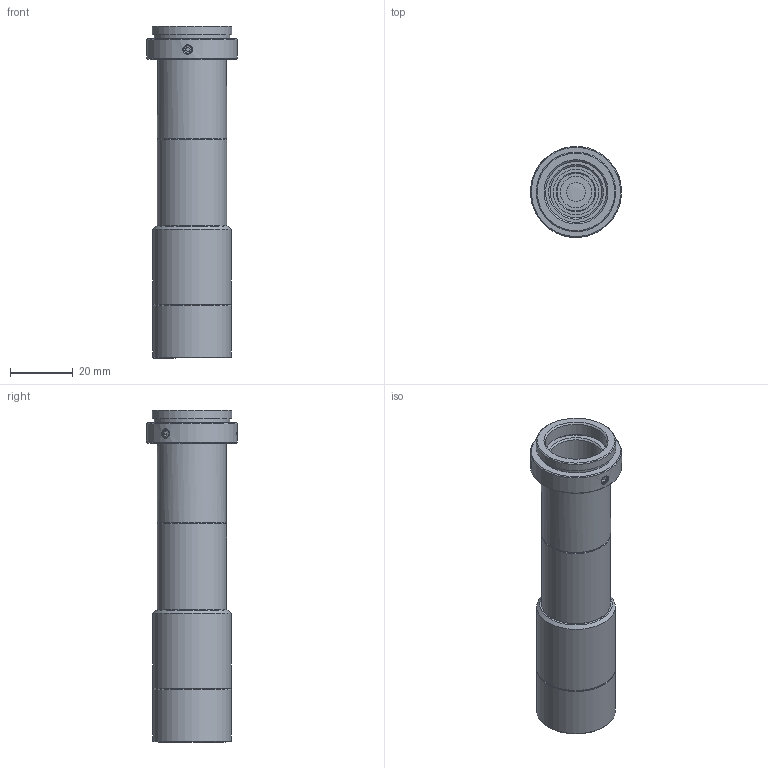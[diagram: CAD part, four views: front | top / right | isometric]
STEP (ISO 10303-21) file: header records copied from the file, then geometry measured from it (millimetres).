
FILE_DESCRIPTION(('STEP AP214'),'1');
FILE_NAME('RTK-4-M65.stp','2026-07-31T08:39:47',(' '),(' '),'Spatial InterOp 3D',' ',' ');
FILE_SCHEMA(('AUTOMOTIVE_DESIGN { 1 0 10303 214 1 1 1 1 }'));
Length unit declared in the file: metre
Products named in the file (2): RTK-4-M65; Component1
Assembly tree (1 placements, depth 2):
  RTK-4-M65
    Component1
Bounding box: 28.91 x 28.95 x 105.63 mm (x, y, z)
Volume: 25835.1 mm3; surface area: 18313.5 mm2
Topology: 1 solids, 11 shells, 188 faces, 389 edges, 257 vertices
Faces by surface type: plane 80, cylinder 55, cone 48, bspline 3, sphere 2
Full cylindrical faces by diameter (mm): 2.5 x6, 6 x1, 10 x2, 12 x3, 12.8 x1, 13.4 x1, 14.2 x1, 14.5 x1, 15 x1, 16.4 x2, 16.5 x1, 17.2 x2, 17.4 x3, 18 x1, 18.2 x2, 18.5 x1, 18.8 x1, 19 x4, 19.4 x1, 20 x2, 20.2 x2, 20.4 x1, 21.2 x1, 22 x6, 23 x2, 23.8 x1, 24.12 x1, 25 x2, 25.32 x1, 29 x1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
Entity records: 6157 total; most frequent: CARTESIAN_POINT 1116, DIRECTION 760, ORIENTED_EDGE 496, EDGE_LOOP 346, AXIS2_PLACEMENT_3D 343, EDGE_CURVE 248, FACE_OUTER_BOUND 246, VERTEX_POINT 223
